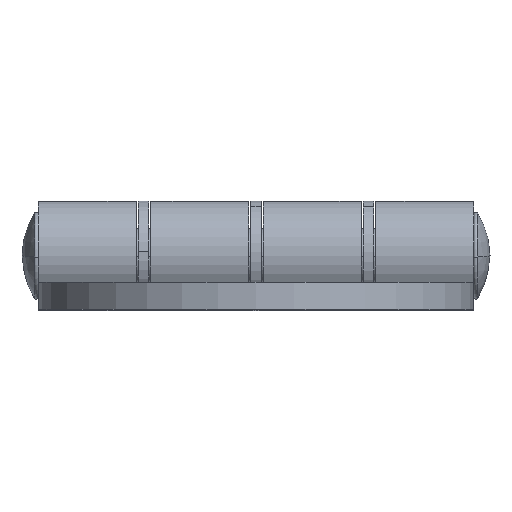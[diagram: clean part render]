
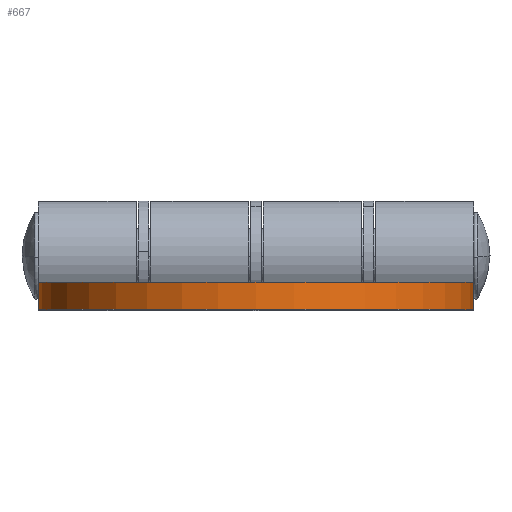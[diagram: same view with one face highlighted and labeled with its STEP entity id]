
A CAD part, top view. The second image highlights one B-rep face of the part: STEP entity #667.
In plain terms, the highlighted cylindrical face has radius 20 mm (diameter 40 mm), a partial arc.
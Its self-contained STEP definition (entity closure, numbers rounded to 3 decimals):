
#33 = VECTOR ( 'NONE', #407, 1000. ) ;
#63 = CARTESIAN_POINT ( 'NONE',  ( 20., -2.5, 20. ) ) ;
#71 = EDGE_CURVE ( 'NONE', #1042, #1146, #1675, .T. ) ;
#173 = CYLINDRICAL_SURFACE ( 'NONE', #604, 20. ) ;
#206 = VERTEX_POINT ( 'NONE', #997 ) ;
#245 = CARTESIAN_POINT ( 'NONE',  ( 40., 0., 20. ) ) ;
#258 = EDGE_CURVE ( 'NONE', #998, #1042, #420, .T. ) ;
#407 = DIRECTION ( 'NONE',  ( 0., -1., 0. ) ) ;
#420 = LINE ( 'NONE', #1239, #33 ) ;
#535 = CARTESIAN_POINT ( 'NONE',  ( 20., 0., 20. ) ) ;
#603 = CARTESIAN_POINT ( 'NONE',  ( 0., -2.5, 20. ) ) ;
#604 = AXIS2_PLACEMENT_3D ( 'NONE', #817, #1358, #1622 ) ;
#652 = DIRECTION ( 'NONE',  ( 0., -1., 0. ) ) ;
#653 = ORIENTED_EDGE ( 'NONE', *, *, #258, .F. ) ;
#665 = VECTOR ( 'NONE', #652, 1000. ) ;
#667 = ADVANCED_FACE ( 'NONE', ( #1127 ), #173, .T. ) ;
#676 = CARTESIAN_POINT ( 'NONE',  ( 40., -2.5, 20. ) ) ;
#748 = DIRECTION ( 'NONE',  ( 0., 0., 1. ) ) ;
#778 = ORIENTED_EDGE ( 'NONE', *, *, #1428, .T. ) ;
#791 = EDGE_LOOP ( 'NONE', ( #778, #1246, #1485, #653 ) ) ;
#817 = CARTESIAN_POINT ( 'NONE',  ( 20., 0., 20. ) ) ;
#818 = CARTESIAN_POINT ( 'NONE',  ( 0., 0., 20. ) ) ;
#997 = CARTESIAN_POINT ( 'NONE',  ( 40., 0., 20. ) ) ;
#998 = VERTEX_POINT ( 'NONE', #818 ) ;
#1042 = VERTEX_POINT ( 'NONE', #603 ) ;
#1069 = CIRCLE ( 'NONE', #1517, 20. ) ;
#1127 = FACE_OUTER_BOUND ( 'NONE', #791, .T. ) ;
#1146 = VERTEX_POINT ( 'NONE', #676 ) ;
#1209 = EDGE_CURVE ( 'NONE', #206, #1146, #1393, .T. ) ;
#1239 = CARTESIAN_POINT ( 'NONE',  ( 0., 0., 20. ) ) ;
#1246 = ORIENTED_EDGE ( 'NONE', *, *, #1209, .T. ) ;
#1358 = DIRECTION ( 'NONE',  ( 0., 1., 0. ) ) ;
#1393 = LINE ( 'NONE', #245, #665 ) ;
#1428 = EDGE_CURVE ( 'NONE', #998, #206, #1069, .T. ) ;
#1453 = AXIS2_PLACEMENT_3D ( 'NONE', #63, #1554, #748 ) ;
#1485 = ORIENTED_EDGE ( 'NONE', *, *, #71, .F. ) ;
#1496 = DIRECTION ( 'NONE',  ( 0., -1., 0. ) ) ;
#1517 = AXIS2_PLACEMENT_3D ( 'NONE', #535, #1496, #1628 ) ;
#1554 = DIRECTION ( 'NONE',  ( 0., -1., 0. ) ) ;
#1622 = DIRECTION ( 'NONE',  ( 0., 0., 1. ) ) ;
#1628 = DIRECTION ( 'NONE',  ( 0., 0., 1. ) ) ;
#1675 = CIRCLE ( 'NONE', #1453, 20. ) ;
